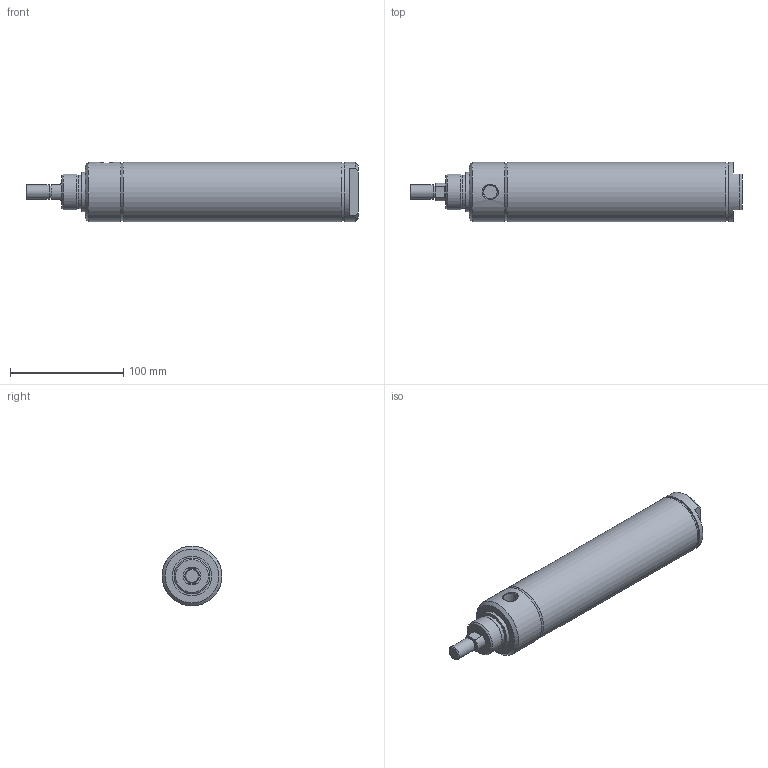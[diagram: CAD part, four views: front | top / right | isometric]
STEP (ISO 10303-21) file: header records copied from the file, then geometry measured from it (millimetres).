
FILE_DESCRIPTION( ( 'STEP AP214' ), '1' );
FILE_NAME( 'p:/temp/worker_477/temp/exporttempdir_83628_160_xtFMr/format_0/2000D01-06A.stp', '2020-05-07T19:03:39', ( 'License CC BY-ND 4.0' ), ( 'CADENAS' ), ' ', 'PARTsolutions', ' ' );
FILE_SCHEMA( ( 'AUTOMOTIVE_DESIGN { 1 0 10303 214 1 1 1 1 }' ) );
Length unit declared in the file: inch
Products named in the file (3): 2000D01-06A; _2000D01-06A-0000A00A0b; _2000D01-06A-0000A00A0r
Assembly tree (2 placements, depth 2):
  2000D01-06A
    _2000D01-06A-0000A00A0b
    _2000D01-06A-0000A00A0r
Bounding box: 293.7 x 52.78 x 52.78 mm (x, y, z)
Volume: 256578.6 mm3; surface area: 106835.8 mm2
Topology: 2 solids, 2 shells, 48 faces, 92 edges, 58 vertices
Faces by surface type: plane 22, cone 13, cylinder 13
Full cylindrical faces by diameter (mm): 11.189 x1, 12.7 x1, 15.875 x3, 29.23 x1, 31.75 x1, 34.925 x1, 50.8 x2, 52.578 x1, 52.781 x2
Entity records: 1605 total; most frequent: CARTESIAN_POINT 271, DIRECTION 206, ORIENTED_EDGE 130, AXIS2_PLACEMENT_3D 95, EDGE_LOOP 84, EDGE_CURVE 65, FACE_OUTER_BOUND 61, VERTEX_POINT 55
